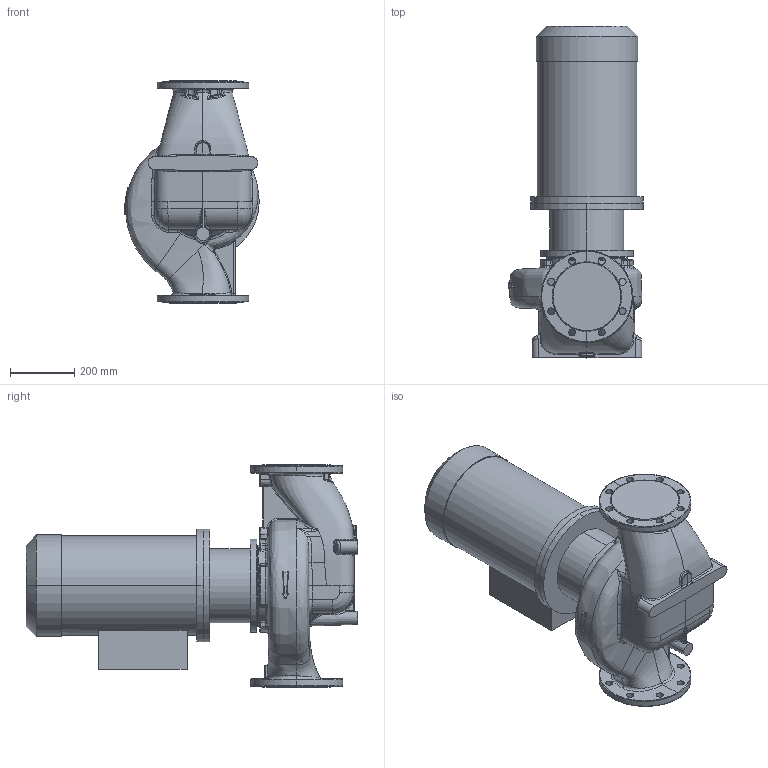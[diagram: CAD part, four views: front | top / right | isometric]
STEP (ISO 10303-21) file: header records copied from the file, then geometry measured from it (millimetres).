
FILE_DESCRIPTION (( 'STEP AP214' ), '1' );
FILE_NAME ('KRL 150-200-4-15.STEP', '2026-04-02T13:46:35', ( '' ), ( '' ), 'SwSTEP 2.0', 'SolidWorks 2016', '' );
FILE_SCHEMA (( 'AUTOMOTIVE_DESIGN' ));
Length unit declared in the file: millimetre
Products named in the file (1): KRL 150-200-4-15
Bounding box: 417.72 x 1030.8 x 690 mm (x, y, z)
Volume: 95225837.5 mm3; surface area: 2311003.6 mm2
Topology: 4 solids, 4 shells, 738 faces, 1775 edges, 1028 vertices
Faces by surface type: bspline 368, cylinder 171, plane 106, cone 33, sphere 33, torus 27
Entity records: 75276 total; most frequent: CARTESIAN_POINT 53323, ORIENTED_EDGE 3478, DIRECTION 2078, EDGE_CURVE 1739, VERTEX_POINT 1028, AXIS2_PLACEMENT_3D 892, EDGE_LOOP 789, UNCERTAINTY_MEASURE_WITH_UNIT 744
